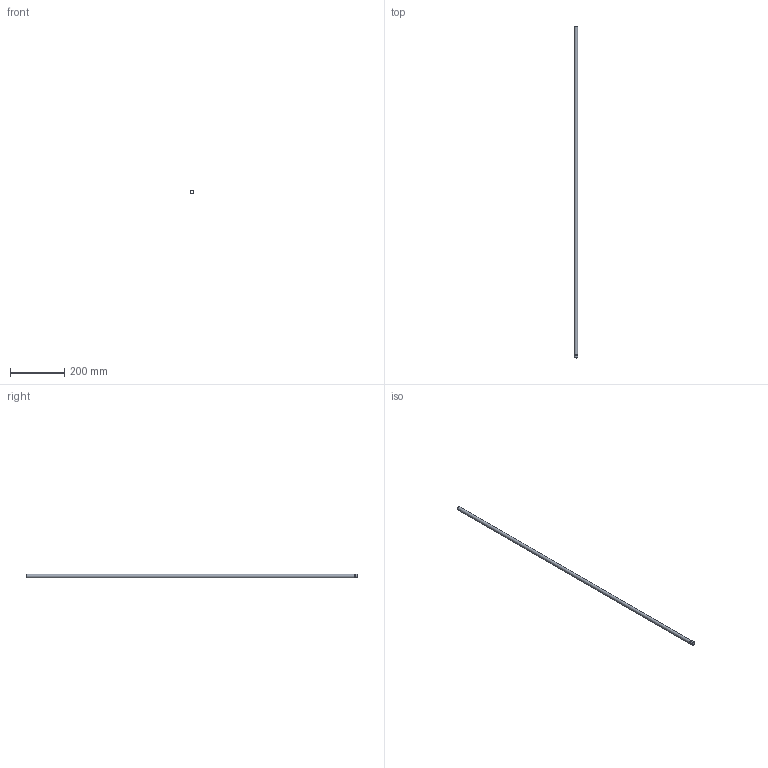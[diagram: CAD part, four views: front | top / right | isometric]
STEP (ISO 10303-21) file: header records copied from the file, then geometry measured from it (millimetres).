
FILE_DESCRIPTION(/* description */ (''),/* implementation_level */ '2;1');
FILE_NAME(/* name */ 'C:/Users/drich/Desktop/HF500T-48 v1.step',/* time_stamp */ '2019-12-30T13:36:33-06:00',/* author */ (''),/* organization */ (''),/* preprocessor_version */ 'ST-DEVELOPER v18',/* originating_system */ 'Autodesk Translation Framework v8.12.0.6',/* authorisation */ '');
FILE_SCHEMA (('AUTOMOTIVE_DESIGN { 1 0 10303 214 3 1 1 }'));
Length unit declared in the file: inch
Products named in the file (1): HF500T-48
Bounding box: 14.33 x 1219.2 x 14.33 mm (x, y, z)
Volume: 33077.6 mm3; surface area: 92006.1 mm2
Topology: 1 solids, 1 shells, 12 faces, 30 edges, 22 vertices
Faces by surface type: plane 4, cylinder 4, torus 3, cone 1
Full cylindrical faces by diameter (mm): 11.278 x1, 12.7 x1, 14.143 x1, 14.326 x1
Entity records: 426 total; most frequent: DIRECTION 81, CARTESIAN_POINT 65, ORIENTED_EDGE 60, AXIS2_PLACEMENT_3D 38, EDGE_CURVE 30, CIRCLE 25, VERTEX_POINT 22, EDGE_LOOP 16
